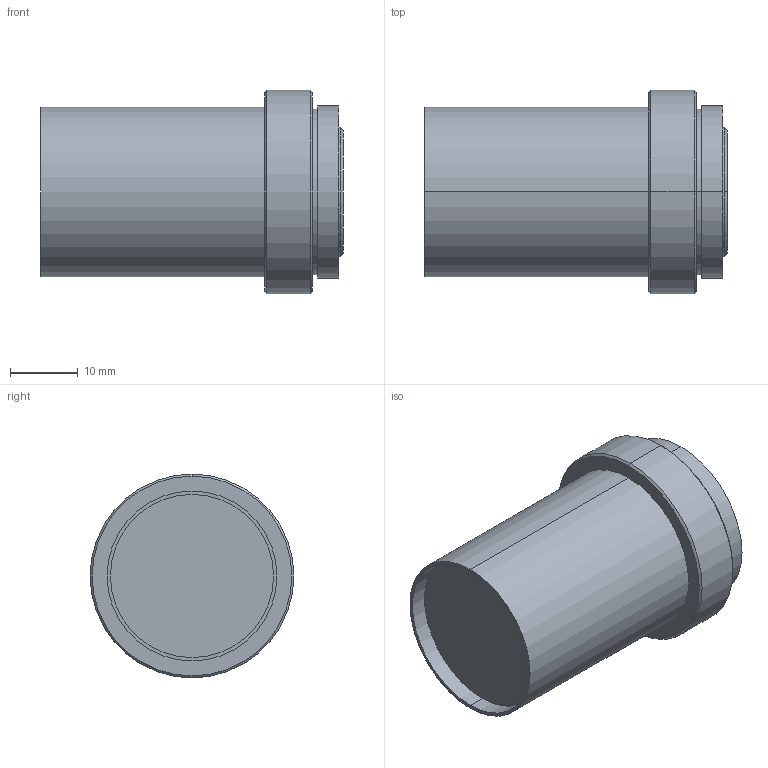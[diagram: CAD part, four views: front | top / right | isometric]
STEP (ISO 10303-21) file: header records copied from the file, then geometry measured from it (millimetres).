
FILE_DESCRIPTION (( 'STEP AP203' ), '1' );
FILE_NAME ('WWT118-0233-168S.STEP', '2021-08-23T03:54:51', ( '' ), ( '' ), 'SwSTEP 2.0', 'SolidWorks 2017', '' );
FILE_SCHEMA (( 'CONFIG_CONTROL_DESIGN' ));
Length unit declared in the file: millimetre
Products named in the file (1): WWT118-0233-168S
Bounding box: 44.58 x 30 x 30 mm (x, y, z)
Volume: 22137.8 mm3; surface area: 5230.1 mm2
Topology: 1 solids, 1 shells, 25 faces, 48 edges, 30 vertices
Faces by surface type: cylinder 12, plane 7, cone 6
Entity records: 721 total; most frequent: DIRECTION 130, CARTESIAN_POINT 104, ORIENTED_EDGE 96, AXIS2_PLACEMENT_3D 56, EDGE_CURVE 48, CIRCLE 30, EDGE_LOOP 30, VERTEX_POINT 30
